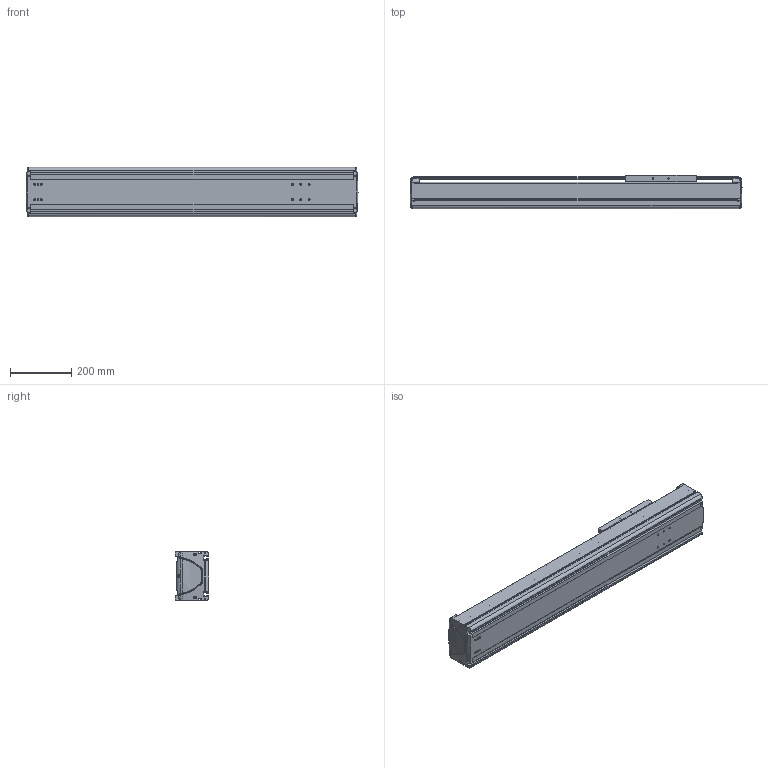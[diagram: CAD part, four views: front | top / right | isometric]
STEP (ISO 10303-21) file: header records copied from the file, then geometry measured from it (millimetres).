
FILE_DESCRIPTION((''),'2;1');
FILE_NAME('BE50G-ST-L_N-65_IGS_PRT','2017-06-18T',(' '),(''),'PRO/ENGINEER BY PARAMETRIC TECHNOLOGY CORPORATION, 2015030','PRO/ENGINEER BY PARAMETRIC TECHNOLOGY CORPORATION, 2015030','');
FILE_SCHEMA(('CONFIG_CONTROL_DESIGN'));
Length unit declared in the file: millimetre
Products named in the file (1): BE50G-ST-L_N-65_IGS_PRT
Bounding box: 1079.98 x 110 x 160 mm (x, y, z)
Volume: 5055805.6 mm3; surface area: 1695363.2 mm2
Topology: 2 solids, 81 shells, 1606 faces, 4262 edges, 2725 vertices
Faces by surface type: cylinder 688, plane 619, bspline 102, torus 87, cone 70, sphere 40
Entity records: 55326 total; most frequent: CARTESIAN_POINT 15941, ORIENTED_EDGE 8128, DIRECTION 8060, EDGE_CURVE 4222, AXIS2_PLACEMENT_3D 2998, VERTEX_POINT 2715, VECTOR 2064, LINE 2064
